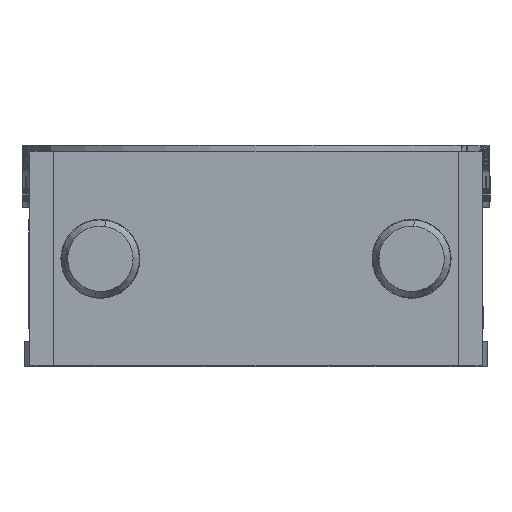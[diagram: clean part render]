
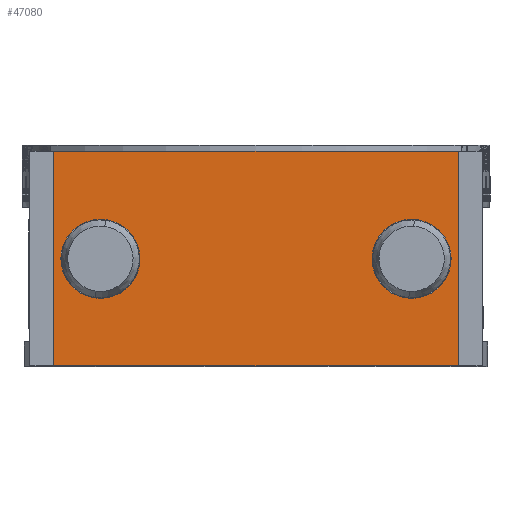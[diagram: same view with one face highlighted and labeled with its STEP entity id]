
A CAD part, front view. The second image highlights one B-rep face of the part: STEP entity #47080.
In plain terms, the highlighted planar face has unit normal (0, -1, 0).
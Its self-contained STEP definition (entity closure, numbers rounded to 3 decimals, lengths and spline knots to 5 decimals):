
#425 = VERTEX_POINT ( 'NONE', #8818 ) ;
#1249 = DIRECTION ( 'NONE',  ( 0., 1., 0. ) ) ;
#1947 = DIRECTION ( 'NONE',  ( 1., 0., 0. ) ) ;
#2250 = FACE_BOUND ( 'NONE', #69942, .T. ) ;
#4638 = ORIENTED_EDGE ( 'NONE', *, *, #54482, .F. ) ;
#4705 = FACE_BOUND ( 'NONE', #49356, .T. ) ;
#5202 = VECTOR ( 'NONE', #77915, 39.37008 ) ;
#6752 = DIRECTION ( 'NONE',  ( 0., 0., -1. ) ) ;
#8195 = LINE ( 'NONE', #93760, #26977 ) ;
#8733 = CARTESIAN_POINT ( 'NONE',  ( 0.325, -0.563, -0.172 ) ) ;
#8818 = CARTESIAN_POINT ( 'NONE',  ( -0.25, -0.563, -0.064 ) ) ;
#8842 = CARTESIAN_POINT ( 'NONE',  ( 0.325, -0.563, 0.172 ) ) ;
#9612 = FACE_OUTER_BOUND ( 'NONE', #46688, .T. ) ;
#11001 = CARTESIAN_POINT ( 'NONE',  ( -0.375, -0.563, 0.172 ) ) ;
#11713 = CARTESIAN_POINT ( 'NONE',  ( -0.375, -0.563, 0.172 ) ) ;
#14537 = AXIS2_PLACEMENT_3D ( 'NONE', #11001, #1249, #86813 ) ;
#16522 = DIRECTION ( 'NONE',  ( 0., -1., 0. ) ) ;
#18495 = LINE ( 'NONE', #8733, #36615 ) ;
#20758 = PLANE ( 'NONE',  #14537 ) ;
#21466 = LINE ( 'NONE', #11713, #34523 ) ;
#23296 = EDGE_CURVE ( 'NONE', #27356, #60889, #21466, .T. ) ;
#23299 = EDGE_CURVE ( 'NONE', #425, #80569, #73979, .T. ) ;
#26286 = CARTESIAN_POINT ( 'NONE',  ( 0.25, -0.563, -0.0005 ) ) ;
#26398 = EDGE_CURVE ( 'NONE', #38139, #27356, #80193, .T. ) ;
#26977 = VECTOR ( 'NONE', #84029, 39.37008 ) ;
#27356 = VERTEX_POINT ( 'NONE', #41412 ) ;
#29388 = VERTEX_POINT ( 'NONE', #37953 ) ;
#34523 = VECTOR ( 'NONE', #1947, 39.37008 ) ;
#36615 = VECTOR ( 'NONE', #94296, 39.37008 ) ;
#36973 = AXIS2_PLACEMENT_3D ( 'NONE', #87518, #77767, #67964 ) ;
#37953 = CARTESIAN_POINT ( 'NONE',  ( 0.325, -0.563, -0.172 ) ) ;
#38139 = VERTEX_POINT ( 'NONE', #45473 ) ;
#40023 = ORIENTED_EDGE ( 'NONE', *, *, #70762, .F. ) ;
#41412 = CARTESIAN_POINT ( 'NONE',  ( -0.325, -0.563, 0.172 ) ) ;
#42128 = ORIENTED_EDGE ( 'NONE', *, *, #23299, .F. ) ;
#43362 = VERTEX_POINT ( 'NONE', #44393 ) ;
#44393 = CARTESIAN_POINT ( 'NONE',  ( 0.25, -0.563, 0.063 ) ) ;
#45473 = CARTESIAN_POINT ( 'NONE',  ( -0.325, -0.563, -0.172 ) ) ;
#45666 = EDGE_CURVE ( 'NONE', #29388, #60889, #18495, .T. ) ;
#46688 = EDGE_LOOP ( 'NONE', ( #76997, #60073, #90059, #84799 ) ) ;
#46988 = EDGE_CURVE ( 'NONE', #80569, #425, #73042, .T. ) ;
#47080 = ADVANCED_FACE ( 'NONE', ( #2250, #4705, #9612 ), #20758, .F. ) ;
#49356 = EDGE_LOOP ( 'NONE', ( #40023, #4638 ) ) ;
#52334 = DIRECTION ( 'NONE',  ( 0., 0., -1. ) ) ;
#54482 = EDGE_CURVE ( 'NONE', #43362, #66141, #81932, .T. ) ;
#55309 = AXIS2_PLACEMENT_3D ( 'NONE', #85766, #75994, #66204 ) ;
#55775 = CARTESIAN_POINT ( 'NONE',  ( -0.25, -0.563, 0.063 ) ) ;
#56591 = CARTESIAN_POINT ( 'NONE',  ( 0.25, -0.563, -0.064 ) ) ;
#60073 = ORIENTED_EDGE ( 'NONE', *, *, #45666, .T. ) ;
#60889 = VERTEX_POINT ( 'NONE', #8842 ) ;
#62111 = DIRECTION ( 'NONE',  ( 0., -1., 0. ) ) ;
#66141 = VERTEX_POINT ( 'NONE', #56591 ) ;
#66204 = DIRECTION ( 'NONE',  ( 0., 0., -1. ) ) ;
#67964 = DIRECTION ( 'NONE',  ( 0., 0., -1. ) ) ;
#69942 = EDGE_LOOP ( 'NONE', ( #42128, #72508 ) ) ;
#70762 = EDGE_CURVE ( 'NONE', #66141, #43362, #70794, .T. ) ;
#70794 = CIRCLE ( 'NONE', #84868, 0.0635 ) ;
#71882 = CARTESIAN_POINT ( 'NONE',  ( -0.25, -0.563, -0.0005 ) ) ;
#72508 = ORIENTED_EDGE ( 'NONE', *, *, #46988, .F. ) ;
#73042 = CIRCLE ( 'NONE', #80350, 0.0635 ) ;
#73979 = CIRCLE ( 'NONE', #36973, 0.0635 ) ;
#75994 = DIRECTION ( 'NONE',  ( 0., -1., 0. ) ) ;
#76997 = ORIENTED_EDGE ( 'NONE', *, *, #86880, .T. ) ;
#77767 = DIRECTION ( 'NONE',  ( 0., -1., 0. ) ) ;
#77915 = DIRECTION ( 'NONE',  ( 0., 0., 1. ) ) ;
#80193 = LINE ( 'NONE', #87668, #5202 ) ;
#80350 = AXIS2_PLACEMENT_3D ( 'NONE', #71882, #62111, #52334 ) ;
#80569 = VERTEX_POINT ( 'NONE', #55775 ) ;
#81932 = CIRCLE ( 'NONE', #55309, 0.0635 ) ;
#84029 = DIRECTION ( 'NONE',  ( 1., 0., 0. ) ) ;
#84799 = ORIENTED_EDGE ( 'NONE', *, *, #26398, .F. ) ;
#84868 = AXIS2_PLACEMENT_3D ( 'NONE', #26286, #16522, #6752 ) ;
#85766 = CARTESIAN_POINT ( 'NONE',  ( 0.25, -0.563, -0.0005 ) ) ;
#86813 = DIRECTION ( 'NONE',  ( -1., 0., 0. ) ) ;
#86880 = EDGE_CURVE ( 'NONE', #38139, #29388, #8195, .T. ) ;
#87518 = CARTESIAN_POINT ( 'NONE',  ( -0.25, -0.563, -0.0005 ) ) ;
#87668 = CARTESIAN_POINT ( 'NONE',  ( -0.325, -0.563, -0.172 ) ) ;
#90059 = ORIENTED_EDGE ( 'NONE', *, *, #23296, .F. ) ;
#93760 = CARTESIAN_POINT ( 'NONE',  ( -0.375, -0.563, -0.172 ) ) ;
#94296 = DIRECTION ( 'NONE',  ( 0., 0., 1. ) ) ;
